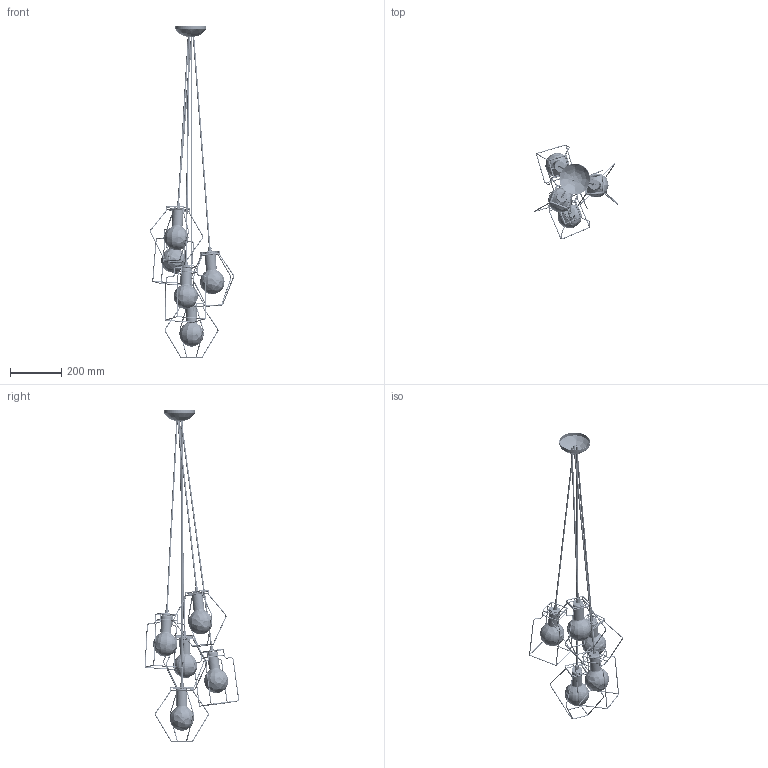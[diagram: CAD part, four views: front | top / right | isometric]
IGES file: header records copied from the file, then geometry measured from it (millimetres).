
Start section: SolidWorks IGES file using NURBS representation for surfaces
Global section: file name: Z:\Modele 3D_WWW\_KOLEKCJE_WWW\FIORD\FIORD-9665\FIORD-9665\FIORD-9665.IGS; native system: SolidWorks 2021; preprocessor: SolidWorks 2021; author: gabriela.tworek; date: 210921.123513; units: millimetre
Bounding box: 329.48 x 371.47 x 1298.91 mm (x, y, z)
Surface area: 690210.6 mm2 (no closed solid volume)
Topology: 0 solids, 0 shells, 2114 faces, 24989 edges, 24954 vertices
Faces by surface type: bspline 2114
